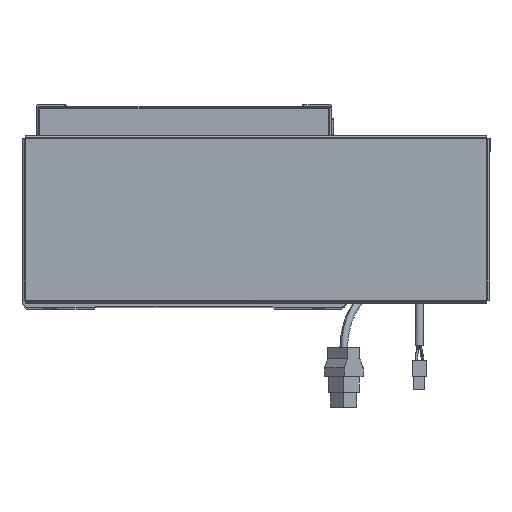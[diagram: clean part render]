
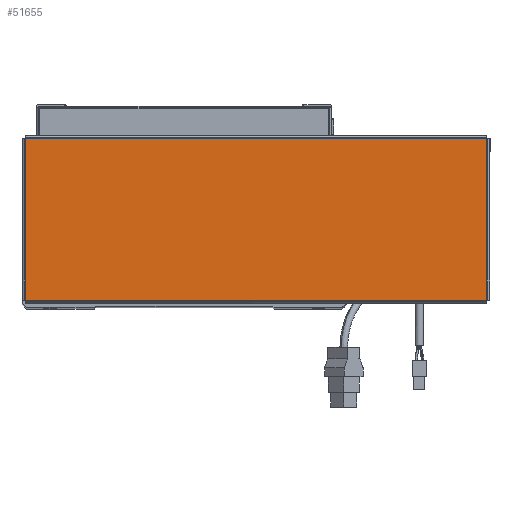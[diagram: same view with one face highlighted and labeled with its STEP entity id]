
A CAD part, top view. The second image highlights one B-rep face of the part: STEP entity #51655.
In plain terms, the highlighted planar face has unit normal (0, 0, 1).
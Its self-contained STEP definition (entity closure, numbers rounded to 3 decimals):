
#4327 = EDGE_CURVE ( 'NONE', #54718, #37735, #53696, .T. ) ;
#4927 = FACE_OUTER_BOUND ( 'NONE', #61102, .T. ) ;
#5657 = VECTOR ( 'NONE', #33251, 1000. ) ;
#7343 = CARTESIAN_POINT ( 'NONE',  ( -156.513, -54.763, 0. ) ) ;
#8126 = EDGE_CURVE ( 'NONE', #45363, #54718, #61093, .T. ) ;
#9260 = ORIENTED_EDGE ( 'NONE', *, *, #4327, .T. ) ;
#10070 = CARTESIAN_POINT ( 'NONE',  ( 156.513, -54.793, 0. ) ) ;
#10623 = CARTESIAN_POINT ( 'NONE',  ( 156.543, 54.763, 0. ) ) ;
#10826 = VECTOR ( 'NONE', #60715, 1000. ) ;
#13043 = CARTESIAN_POINT ( 'NONE',  ( 156.513, 54.763, 0. ) ) ;
#15586 = DIRECTION ( 'NONE',  ( -1., 0., 0. ) ) ;
#26633 = VECTOR ( 'NONE', #59134, 1000. ) ;
#27607 = VERTEX_POINT ( 'NONE', #52617 ) ;
#28877 = DIRECTION ( 'NONE',  ( 1., 0., 0. ) ) ;
#29089 = CARTESIAN_POINT ( 'NONE',  ( 0., 0., 0. ) ) ;
#30846 = CARTESIAN_POINT ( 'NONE',  ( -156.543, -54.763, 0. ) ) ;
#33251 = DIRECTION ( 'NONE',  ( 0., -1., 0. ) ) ;
#37735 = VERTEX_POINT ( 'NONE', #13043 ) ;
#39096 = AXIS2_PLACEMENT_3D ( 'NONE', #29089, #49235, #28877 ) ;
#39671 = ORIENTED_EDGE ( 'NONE', *, *, #8126, .T. ) ;
#40429 = LINE ( 'NONE', #47999, #5657 ) ;
#45363 = VERTEX_POINT ( 'NONE', #7343 ) ;
#46839 = EDGE_CURVE ( 'NONE', #37735, #27607, #52137, .T. ) ;
#47859 = ORIENTED_EDGE ( 'NONE', *, *, #61070, .T. ) ;
#47999 = CARTESIAN_POINT ( 'NONE',  ( -156.513, 54.793, 0. ) ) ;
#49235 = DIRECTION ( 'NONE',  ( 0., 0., 1. ) ) ;
#51655 = ADVANCED_FACE ( 'NONE', ( #4927 ), #53961, .T. ) ;
#52137 = LINE ( 'NONE', #10623, #60622 ) ;
#52617 = CARTESIAN_POINT ( 'NONE',  ( -156.513, 54.763, 0. ) ) ;
#53696 = LINE ( 'NONE', #10070, #26633 ) ;
#53961 = PLANE ( 'NONE',  #39096 ) ;
#54718 = VERTEX_POINT ( 'NONE', #59258 ) ;
#59134 = DIRECTION ( 'NONE',  ( 0., 1., 0. ) ) ;
#59258 = CARTESIAN_POINT ( 'NONE',  ( 156.513, -54.763, 0. ) ) ;
#60622 = VECTOR ( 'NONE', #15586, 1000. ) ;
#60715 = DIRECTION ( 'NONE',  ( 1., 0., 0. ) ) ;
#61070 = EDGE_CURVE ( 'NONE', #27607, #45363, #40429, .T. ) ;
#61093 = LINE ( 'NONE', #30846, #10826 ) ;
#61102 = EDGE_LOOP ( 'NONE', ( #39671, #9260, #63659, #47859 ) ) ;
#63659 = ORIENTED_EDGE ( 'NONE', *, *, #46839, .T. ) ;
